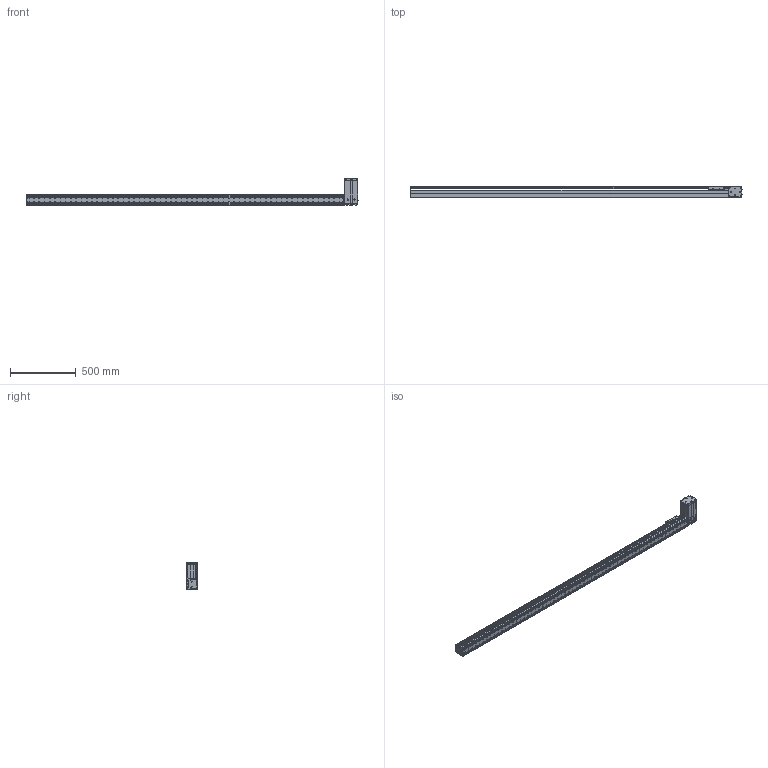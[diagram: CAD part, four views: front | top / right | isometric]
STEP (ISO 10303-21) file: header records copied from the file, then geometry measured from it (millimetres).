
FILE_DESCRIPTION((''),'2;1');
FILE_NAME('BE10_-BR-M_N-N0_IGS_PRT','2017-06-18T',(' '),(''),'PRO/ENGINEER BY PARAMETRIC TECHNOLOGY CORPORATION, 2015030','PRO/ENGINEER BY PARAMETRIC TECHNOLOGY CORPORATION, 2015030','');
FILE_SCHEMA(('CONFIG_CONTROL_DESIGN'));
Products named in the file (1): BE10_-BR-M_N-N0_IGS_PRT
Bounding box: 2520.8 x 85 x 200.22 mm (x, y, z)
Volume: 3238770.8 mm3; surface area: 2279378.1 mm2
Topology: 5 solids, 199 shells, 2462 faces, 6761 edges, 4514 vertices
Faces by surface type: cylinder 1212, plane 1087, cone 107, sphere 28, torus 25, bspline 3
Entity records: 80725 total; most frequent: CARTESIAN_POINT 16534, DIRECTION 13710, ORIENTED_EDGE 12626, EDGE_CURVE 6691, AXIS2_PLACEMENT_3D 5077, VERTEX_POINT 4510, VECTOR 3556, LINE 3556
